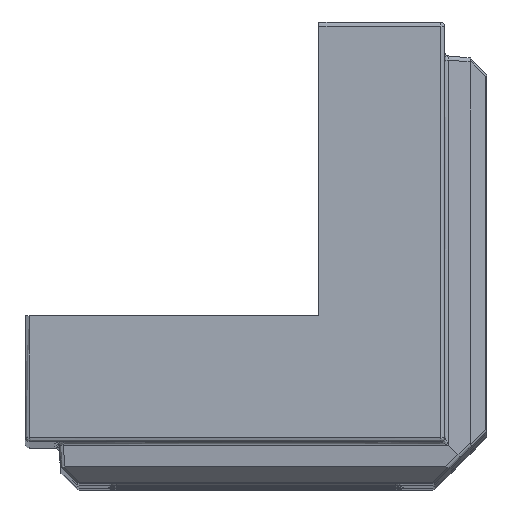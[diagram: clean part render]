
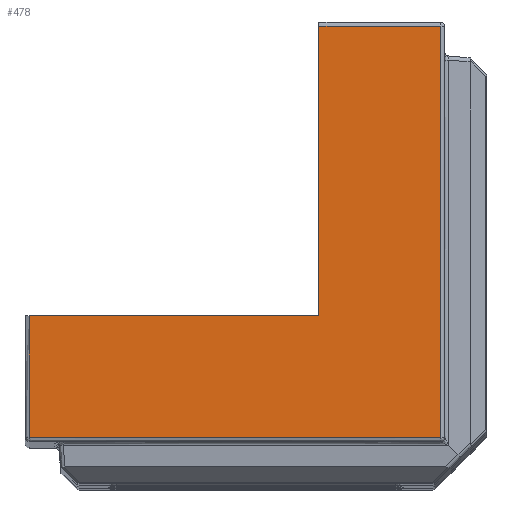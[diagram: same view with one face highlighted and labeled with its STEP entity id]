
A CAD part, top view. The second image highlights one B-rep face of the part: STEP entity #478.
In plain terms, the highlighted planar face has unit normal (0, 0, 1).
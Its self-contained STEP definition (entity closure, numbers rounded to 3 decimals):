
#478=ADVANCED_FACE('',(#973),#6696,.T.);
#973=FACE_OUTER_BOUND('',#1474,.T.);
#1474=EDGE_LOOP('',(#3408,#3409,#3410,#3411,#3412,#3413));
#3408=ORIENTED_EDGE('',*,*,#3936,.F.);
#3409=ORIENTED_EDGE('',*,*,#3932,.F.);
#3410=ORIENTED_EDGE('',*,*,#3942,.F.);
#3411=ORIENTED_EDGE('',*,*,#3938,.F.);
#3412=ORIENTED_EDGE('',*,*,#4785,.F.);
#3413=ORIENTED_EDGE('',*,*,#4784,.F.);
#3932=EDGE_CURVE('',#6113,#6110,#4938,.T.);
#3936=EDGE_CURVE('',#6110,#6114,#4941,.T.);
#3938=EDGE_CURVE('',#6117,#6111,#4942,.T.);
#3942=EDGE_CURVE('',#6111,#6113,#4945,.T.);
#4784=EDGE_CURVE('',#6114,#6620,#5430,.T.);
#4785=EDGE_CURVE('',#6620,#6117,#5431,.T.);
#4938=B_SPLINE_CURVE_WITH_KNOTS('',1,(#18073,#18074),.UNSPECIFIED.,.F.,
 .F.,(2,2),(0.,49.),.UNSPECIFIED.);
#4941=B_SPLINE_CURVE_WITH_KNOTS('',1,(#18082,#18083),.UNSPECIFIED.,.F.,
 .F.,(2,2),(0.,14.5),.UNSPECIFIED.);
#4942=B_SPLINE_CURVE_WITH_KNOTS('',1,(#18087,#18088),.UNSPECIFIED.,.F.,
 .F.,(2,2),(0.,14.5),.UNSPECIFIED.);
#4945=B_SPLINE_CURVE_WITH_KNOTS('',1,(#18096,#18097),.UNSPECIFIED.,.F.,
 .F.,(2,2),(0.,49.),.UNSPECIFIED.);
#5430=B_SPLINE_CURVE_WITH_KNOTS('',1,(#20546,#20547),.UNSPECIFIED.,.F.,
 .F.,(2,2),(-34.5,0.),.UNSPECIFIED.);
#5431=B_SPLINE_CURVE_WITH_KNOTS('',1,(#20548,#20549),.UNSPECIFIED.,.F.,
 .F.,(2,2),(-34.5,0.),.UNSPECIFIED.);
#6110=VERTEX_POINT('',#16953);
#6111=VERTEX_POINT('',#16954);
#6113=VERTEX_POINT('',#16956);
#6114=VERTEX_POINT('',#16957);
#6117=VERTEX_POINT('',#16960);
#6620=VERTEX_POINT('',#17463);
#6696=PLANE('',#7211);
#7211=AXIS2_PLACEMENT_3D('',#16605,#7324,$);
#7324=DIRECTION('',(0.,0.,1.));
#16605=CARTESIAN_POINT('',(1687.499,336.509,440.));
#16953=CARTESIAN_POINT('',(1692.399,341.409,440.));
#16954=CARTESIAN_POINT('',(1741.399,390.409,440.));
#16956=CARTESIAN_POINT('',(1741.399,341.409,440.));
#16957=CARTESIAN_POINT('',(1692.399,355.909,440.));
#16960=CARTESIAN_POINT('',(1726.899,390.409,440.));
#17463=CARTESIAN_POINT('',(1726.899,355.909,440.));
#18073=CARTESIAN_POINT('',(1741.399,341.409,440.));
#18074=CARTESIAN_POINT('',(1692.399,341.409,440.));
#18082=CARTESIAN_POINT('',(1692.399,341.409,440.));
#18083=CARTESIAN_POINT('',(1692.399,355.909,440.));
#18087=CARTESIAN_POINT('',(1726.899,390.409,440.));
#18088=CARTESIAN_POINT('',(1741.399,390.409,440.));
#18096=CARTESIAN_POINT('',(1741.399,390.409,440.));
#18097=CARTESIAN_POINT('',(1741.399,341.409,440.));
#20546=CARTESIAN_POINT('',(1692.399,355.909,440.));
#20547=CARTESIAN_POINT('',(1726.899,355.909,440.));
#20548=CARTESIAN_POINT('',(1726.899,355.909,440.));
#20549=CARTESIAN_POINT('',(1726.899,390.409,440.));
